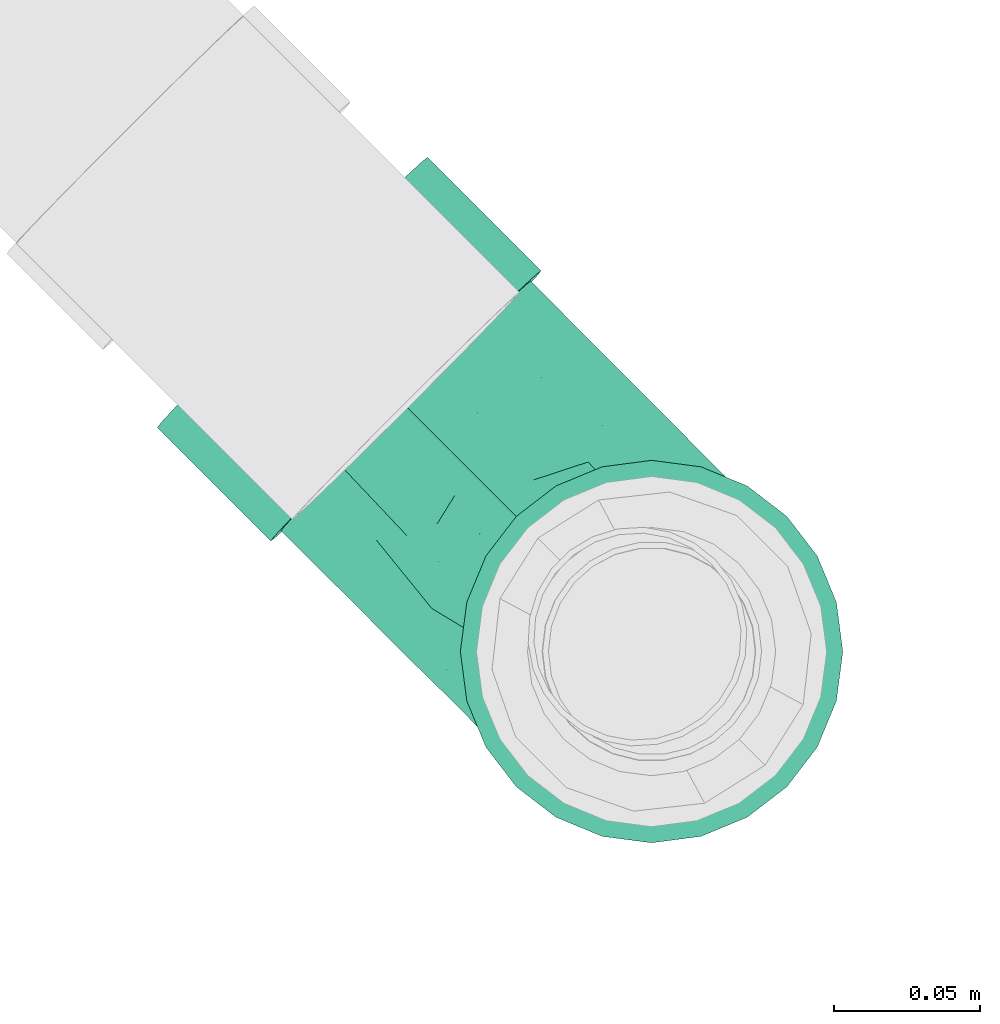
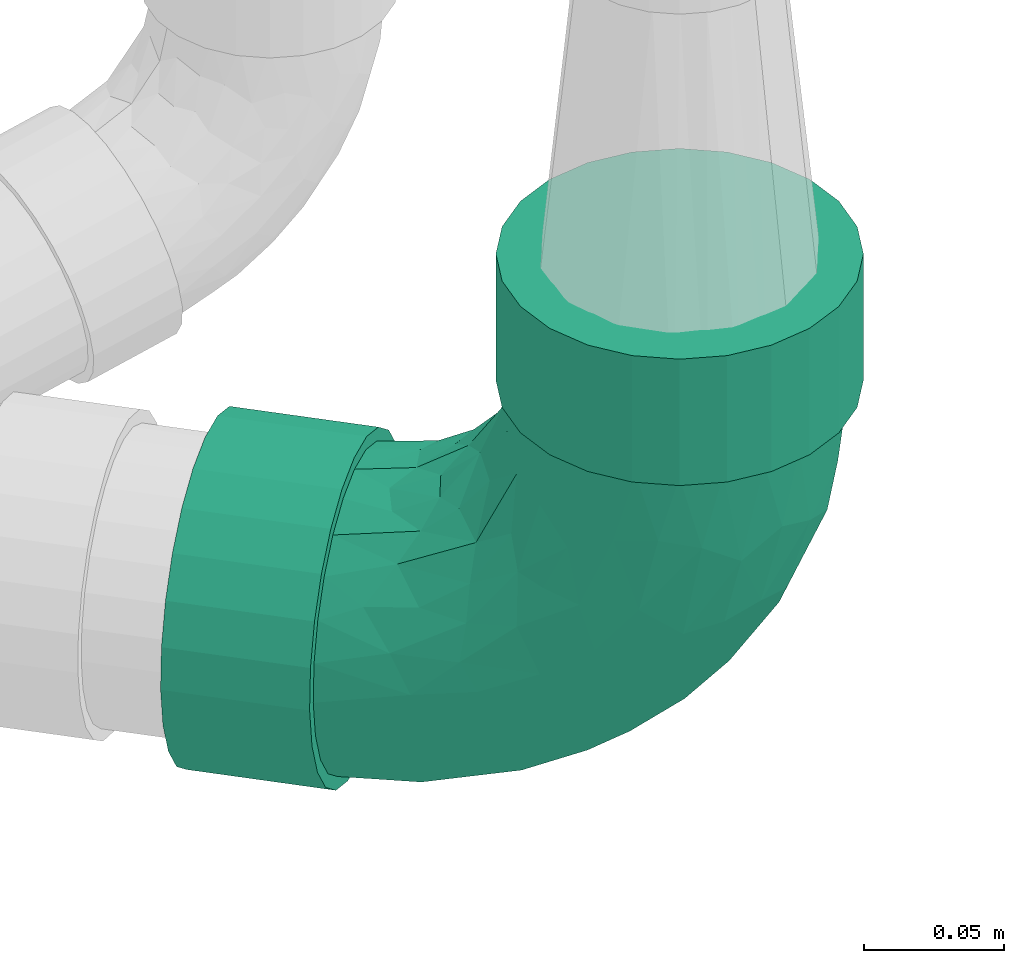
# One storey, part 63 of 83: 1 flow fitting.
"""IFC2X3 building model written with IfcOpenShell, lengths in millimetres."""

from ifc_helpers import new_model, entity, si_unit, converted_unit, derived_unit, direction, frame, origin_with_axes, place, context, subcontext, project, spatial, open_shell, surface_model, source, transform, mapped, type_object, element, save


model = new_model("IFC2X3")

# Units and contexts
model_context = context("Model", 3, precision=0.01, world=frame((0.0, 4.29681676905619e-09, 0.0)), true_north=direction((4.01073788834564e-13, 1.0)))
plan_context = context("Plan", 3, precision=0.01, world=frame((0.0, 4.29681676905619e-09, 0.0)), true_north=direction((4.01073788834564e-13, 1.0)))
body_context = subcontext(model_context, "Body", "Model", "MODEL_VIEW")
ifc_project = project(units=[converted_unit("PLANEANGLEUNIT", "DEGREE", entity("IfcPositiveLengthMeasure", 0.0174532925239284), si_unit("PLANEANGLEUNIT", "RADIAN"), dimensions=[0, 0, 0, 0, 0, 0, 0]), si_unit("AREAUNIT", "SQUARE_METRE"), si_unit("LENGTHUNIT", "METRE", prefix="MILLI"), si_unit("MASSUNIT", "GRAM", prefix="KILO"), si_unit("POWERUNIT", "WATT"), si_unit("PRESSUREUNIT", "PASCAL"), si_unit("FORCEUNIT", "NEWTON", prefix="KILO"), si_unit("ELECTRICVOLTAGEUNIT", "VOLT"), si_unit("ELECTRICCURRENTUNIT", "AMPERE"), si_unit("THERMODYNAMICTEMPERATUREUNIT", "DEGREE_CELSIUS"), si_unit("TIMEUNIT", "SECOND"), si_unit("VOLUMEUNIT", "CUBIC_METRE"), derived_unit("LINEARVELOCITYUNIT", [(si_unit("LENGTHUNIT", "METRE"), 1), (si_unit("TIMEUNIT", "SECOND"), -1)]), derived_unit("VOLUMETRICFLOWRATEUNIT", [(si_unit("VOLUMEUNIT", "CUBIC_METRE"), 1), (si_unit("TIMEUNIT", "SECOND"), -1)]), derived_unit("THERMALTRANSMITTANCEUNIT", [(si_unit("POWERUNIT", "WATT"), 1), (si_unit("THERMODYNAMICTEMPERATUREUNIT", "KELVIN"), -1), (si_unit("AREAUNIT", "SQUARE_METRE"), -1)]), derived_unit("SOUNDPRESSUREUNIT", [(si_unit("PRESSUREUNIT", "PASCAL"), 1)])], contexts=[model_context, plan_context])

# Site, building, storey
site_placement = place(None, frame((0.0, -4.29681676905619e-09, 0.0), z_axis=(0.0, 0.0, 1.0), x_axis=(1.0, 0.0, 0.0)))
site = spatial("IfcSite", under=ifc_project, at=site_placement, Name="ENGM", CompositionType="ELEMENT")
building_placement = place(site_placement, frame((0.0, 4.29681676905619e-09, 0.0), z_axis=(0.0, 0.0, 1.0), x_axis=(1.0, 0.0, 0.0)))
building = spatial("IfcBuilding", under=site, at=building_placement, Name="TI", CompositionType="ELEMENT")
storey_placement = place(building_placement, frame((0.0, 0.0, 204000.0), z_axis=(0.0, 0.0, 1.0), x_axis=(1.0, 0.0, 0.0)))
storey = spatial("IfcBuildingStorey", under=building, at=storey_placement, Name="Nivå D", CompositionType="ELEMENT", Elevation=204000.0)

# Flow fitting
pipe_fitting_type = type_object("IfcPipeFittingType", Name="magi_sewer_bend_001", PredefinedType="BEND")
shared_shape = source(origin_with_axes(), body_context, "Body", "SurfaceModel", [
    surface_model("IfcShellBasedSurfaceModel", [(-174.00014, -16.95265, -63.26814), (-174.00014, -32.75, -56.72466), (-174.00014, -46.3155, -46.3155), (-174.00014, -63.26814, -16.95265), (-174.00014, 63.26814, 16.95265), (-174.00014, 46.3155, -46.3155), (-174.00014, -56.72466, -32.75), (-174.00014, 16.95265, -63.26814), (-174.00014, 0.0, -65.5), (-174.00014, 32.75, -56.72466), (-174.00014, 56.72466, -32.75), (-174.00014, 65.5, 0.0), (-174.00014, 63.26814, -16.95265), (-174.00014, -65.5, 0.0), (-174.00014, -56.72466, 32.75), (-174.00014, -46.3155, 46.3155), (-174.00014, -16.95265, 63.26814), (-174.00014, -32.75, 56.72466), (-174.00014, 0.0, 65.5), (-174.00014, 46.3155, 46.3155), (-174.00014, 56.72466, 32.75), (-174.00014, 16.95265, 63.26814), (-174.00014, 32.75, 56.72466), (-174.00014, -63.26814, 16.95265), (-119.00014, -16.95265, 63.26814), (-119.00014, 16.95265, 63.26814), (-119.00014, 0.0, 65.5), (-119.00014, -46.3155, 46.3155), (-119.00014, -32.75, 56.72466), (-119.00014, -56.72466, 32.75), (-119.00014, -63.26814, 16.95265), (-119.00014, 63.26814, 16.95265), (-119.00014, 46.3155, 46.3155), (-119.00014, 32.75, 56.72466), (-119.00014, 56.72466, 32.75), (-119.00014, 65.5, 0.0), (-119.00014, -65.5, 0.0), (-119.00014, -63.26814, -16.95265), (-119.00014, 46.3155, -46.3155), (-119.00014, -46.3155, -46.3155), (-119.00014, -56.72466, -32.75), (-119.00014, -32.75, -56.72466), (-119.00014, -16.95265, -63.26814), (-119.00014, 56.72466, -32.75), (-119.00014, 63.26814, -16.95265), (-119.00014, 16.95265, -63.26814), (-119.00014, 32.75, -56.72466), (-119.00014, 0.0, -65.5), (-60.35976, 175.0303, 16.95265), (-53.81719, 174.92126, 32.75), (-43.40946, 174.7478, 46.3155), (-14.05069, 174.25848, 63.26814), (-62.59131, 175.06749, 0.0), (-29.84585, 174.52174, 56.72466), (2.8996, 173.97597, 65.5), (-53.81719, 174.92126, -32.75), (-60.35976, 175.0303, -16.95265), (-43.40946, 174.7478, -46.3155), (-29.84585, 174.52174, -56.72466), (2.8996, 173.97597, -65.5), (-14.05069, 174.25848, -63.26814), (19.84989, 173.69347, 63.26814), (35.64505, 173.43022, 56.72466), (49.20866, 173.20416, 46.3155), (19.84989, 173.69347, -63.26814), (66.15896, 172.92166, 16.95265), (68.3905, 172.88447, 0.0), (59.61639, 173.0307, 32.75), (49.20866, 173.20416, -46.3155), (35.64505, 173.43022, -56.72466), (66.15896, 172.92166, -16.95265), (59.61639, 173.0307, -32.75), (65.24242, 117.92929, 16.95265), (18.93335, 118.70111, -63.26814), (67.47397, 117.8921, 0.0), (48.29212, 118.2118, 46.3155), (58.69985, 118.03833, 32.75), (34.72851, 118.43786, 56.72466), (18.93335, 118.70111, 63.26814), (-30.76239, 119.52937, -56.72466), (65.24242, 117.92929, -16.95265), (48.29212, 118.2118, -46.3155), (58.69985, 118.03833, -32.75), (34.72851, 118.43786, -56.72466), (1.98306, 118.98362, -65.5), (-14.96723, 119.26612, 63.26814), (-61.2763, 120.03794, 16.95265), (-30.76239, 119.52937, 56.72466), (-44.326, 119.75544, 46.3155), (-54.73373, 119.92889, 32.75), (-44.326, 119.75544, -46.3155), (-14.96723, 119.26612, -63.26814), (-61.2763, 120.03794, -16.95265), (-54.73373, 119.92889, -32.75), (-63.50784, 120.07513, 0.0), (1.98306, 118.98362, 65.5), (-119.00014, 15.65855, -58.43851), (-119.00014, 0.0, -60.5), (-119.00014, 58.43851, -15.65855), (-119.00014, 30.25, -52.39454), (-119.00014, 52.39454, -30.25), (-119.00014, 42.77996, -42.77996), (-119.00014, -60.5, 0.0), (-119.00014, -30.25, -52.39454), (-119.00014, -42.77996, -42.77996), (-119.00014, -15.65855, -58.43851), (-119.00014, -58.43851, -15.65855), (-119.00014, -52.39454, -30.25), (-119.00014, -58.43851, 15.65855), (-119.00014, 58.43851, 15.65855), (-119.00014, 52.39454, 30.25), (-119.00014, 42.77996, 42.77996), (-119.00014, 30.25, 52.39454), (-119.00014, 15.65855, 58.43851), (-119.00014, -52.39454, 30.25), (-119.00014, -42.77996, 42.77996), (-119.00014, -30.25, 52.39454), (-119.00014, -15.65855, 58.43851), (-119.00014, 0.0, 60.5), (-119.00014, 60.5, 0.0), (1.98306, 118.98362, -60.5), (-13.67332, 119.24456, -58.43851), (-28.26274, 119.48771, -52.39454), (-40.79096, 119.69651, -42.77996), (-50.4042, 119.85674, -30.25), (-56.44734, 119.95745, -15.65855), (62.47466, 117.97542, 0.0), (32.22886, 118.47951, -52.39454), (54.37032, 118.1105, -30.25), (44.75708, 118.27072, -42.77996), (17.63944, 118.72268, -58.43851), (60.41346, 118.00978, -15.65855), (60.41346, 118.00978, 15.65855), (-56.44734, 119.95745, 15.65855), (-28.26274, 119.48771, 52.39454), (-50.4042, 119.85674, 30.25), (-40.79096, 119.69651, 42.77996), (-13.67332, 119.24456, 58.43851), (54.37032, 118.1105, 30.25), (32.22886, 118.47951, 52.39454), (44.75708, 118.27072, 42.77996), (17.63944, 118.72268, 58.43851), (1.98306, 118.98362, 60.5), (-58.50854, 119.9918, 0.0), (-86.96867, -47.00972, 34.00968), (-80.7819, -53.24129, 19.16737), (-72.5116, -54.44534, 0.0), (-89.08726, -56.60415, 0.0), (39.10086, 50.19741, 30.53174), (28.46675, 46.66826, 41.37372), (27.10486, 26.26643, 28.93951), (15.6131, 45.13, 50.36408), (15.04575, 19.2865, 37.76291), (-86.89894, -22.84389, 54.44468), (-45.38391, -14.85887, 50.36408), (-58.84928, -0.69632, 58.67437), (36.10726, 76.60456, 45.09177), (-77.19562, -34.82568, 45.09177), (-43.38966, -41.835, 15.30069), (-50.81815, -45.56532, 0.0), (-29.12469, -36.6853, 0.0), (-60.04164, 103.94237, 10.26064), (-68.71247, 84.86452, 13.0505), (-55.18446, 104.31342, 25.11937), (-103.01513, 36.62698, 49.25858), (-92.74998, 50.41099, 39.65912), (-81.72606, 68.63628, 21.03712), (-72.26232, 71.22128, 29.68156), (-20.02581, 58.58896, 60.3682), (-43.60086, 44.33359, 58.98152), (-35.10512, 25.97135, 60.22491), (-90.76971, -8.01993, 59.47818), (-20.87515, 103.00241, 56.64972), (-6.82454, 88.78959, 60.3476), (-82.9744, 9.26658, 60.39266), (-86.23765, 60.09892, 31.18136), (-99.51292, 59.70606, 21.14965), (-103.45871, 61.66716, 10.01393), (-84.31894, 70.43622, 9.89467), (-26.71447, -26.66338, 28.93951), (-19.53455, -14.72227, 37.76291), (-47.08157, -27.47335, 41.55099), (-76.57813, 77.86506, 0.0), (-96.08086, 65.00931, 0.0), (-91.33639, 23.74801, 57.13701), (-14.77502, 39.18153, 59.39632), (-28.69984, 11.00861, 56.62258), (-4.83421, 31.85984, 55.60311), (-9.89114, 10.05736, 49.62576), (44.13038, 45.82007, 14.96218), (55.64614, 71.59424, 0.0), (54.58007, 79.88344, 19.16737), (-64.95987, 25.67993, 59.41108), (-58.07521, 14.73739, 60.48167), (48.45247, 86.17322, 34.00968), (9.53143, 90.62347, 59.47818), (-50.84203, -38.25892, 30.53174), (58.08087, 88.13162, 0.0), (-48.14306, 76.43599, 47.63822), (-48.04586, 96.6209, 39.32696), (-62.58244, 66.82421, 42.77739), (-24.73556, 80.88675, 57.58424), (-63.39916, 97.15086, 0.0), (-36.69505, 92.46993, 50.11681), (-44.22551, 64.7195, 53.93366), (24.28883, 86.50619, 54.44468), (-63.12434, 40.58831, 55.92424), (-63.07462, 53.90164, 50.27785), (-81.88762, 40.91876, 50.87764), (-33.87244, 62.01368, 57.93391), (1.67691, 58.82951, 58.67437), (6.44015, -6.54838, 17.55786), (-10.4294, -22.54506, 0.0), (8.2659, -8.40481, 0.0), (23.51883, 13.41447, 18.60777), (13.30477, 6.6046, 27.47303), (-13.80454, -23.29202, 18.60777), (22.71573, 10.05225, 0.0), (-0.56725, 0.57678, 36.95386), (-3.90739, -10.13033, 28.29631), (37.16555, 28.50931, 0.0), (-60.70932, 85.30803, 29.80333), (46.40584, 50.05178, 0.0), (-99.55393, 36.96913, -49.52575), (-47.13616, -27.6851, -41.37372), (-45.38391, -14.85887, -50.36407), (-19.53455, -14.72227, -37.76291), (-88.66354, 8.30321, -60.3476), (24.28883, 86.50619, -54.44468), (15.6131, 45.12999, -50.36407), (1.6769, 58.8295, -58.67437), (-102.64024, 22.58872, -56.64972), (-68.71247, 84.86451, -13.0505), (-98.93529, 61.77779, -15.53658), (-60.04164, 103.94237, -10.26064), (-84.31894, 70.43622, -9.89467), (-50.84204, -38.25892, -30.53174), (-26.71447, -26.66338, -28.93951), (-56.98453, 48.01392, -54.99058), (-61.32494, 34.41782, -58.07217), (-76.37995, 43.81612, -50.8173), (-77.19562, -34.82568, -45.09177), (-58.24711, 20.99937, -60.3682), (-43.60086, 44.33359, -58.98152), (-25.38274, 35.53304, -60.22491), (-92.31551, 50.53005, -39.70651), (-80.7819, -53.24129, -19.16737), (-57.91698, 100.1219, -21.77038), (-59.85683, 85.88116, -30.55746), (-39.53074, 63.79195, -55.92424), (-22.22265, 91.71946, -57.13701), (-24.59385, 65.37879, -59.41108), (-86.96867, -47.00972, -34.00968), (-13.76756, 58.31273, -60.48167), (-86.89894, -22.84389, -54.44468), (-62.11182, 55.94126, -49.64549), (-39.54847, 82.55812, -50.87764), (-46.54912, -43.36069, -14.96218), (36.10726, 76.60456, -45.09177), (28.25413, 46.6172, -41.55099), (-90.76971, -8.01993, -59.47818), (-96.22555, 57.40199, -28.34878), (-76.12545, 65.40938, -32.8631), (48.45247, 86.17321, -34.00968), (39.10086, 50.19741, -30.53174), (-81.72606, 68.63628, -21.03712), (-7.88258, 83.1173, -60.39266), (27.10486, 26.26643, -28.93951), (15.04576, 19.2865, -37.76291), (-34.90521, 103.61119, -49.25858), (54.58007, 79.88344, -19.16737), (9.53143, 90.62347, -59.47818), (-51.30243, 78.81377, -44.27222), (-47.73366, 97.94443, -39.18321), (-38.92988, 15.4259, -59.39632), (-10.52882, 28.8793, -56.62258), (-31.77486, 5.36446, -55.60311), (42.55225, 42.68648, -15.30069), (-3.9074, -10.13034, -28.29631), (-13.80454, -23.29203, -18.60777), (-80.46332, 26.08004, -57.58424), (-65.77203, 63.68733, -42.77739), (-58.84928, -0.69632, -58.67437), (-9.89114, 10.05736, -49.62575), (6.44015, -6.54838, -17.55786), (13.30476, 6.6046, -27.47303), (-0.56725, 0.57678, -36.95385), (23.51883, 13.41448, -18.60777)], [open_shell([[[0, 1, 2]], [[0, 2, 3]], [[4, 5, 0]], [[3, 2, 6]], [[3, 4, 0]], [[0, 7, 8]], [[0, 9, 7]], [[5, 9, 0]], [[5, 4, 10]], [[10, 11, 12]], [[4, 3, 13]], [[14, 15, 13]], [[13, 15, 4]], [[15, 16, 4]], [[16, 15, 17]], [[18, 4, 16]], [[4, 19, 20]], [[11, 10, 4]], [[19, 21, 22]], [[21, 19, 4]], [[18, 21, 4]], [[23, 14, 13]], [[24, 25, 26]], [[27, 24, 28]], [[27, 29, 30]], [[25, 24, 27]], [[31, 27, 30]], [[25, 32, 33]], [[32, 25, 31]], [[32, 31, 34]], [[25, 27, 31]], [[30, 35, 31]], [[30, 36, 35]], [[37, 38, 36]], [[39, 37, 40]], [[39, 41, 42]], [[39, 42, 37]], [[38, 37, 42]], [[36, 38, 43]], [[44, 35, 43]], [[42, 45, 46]], [[46, 38, 42]], [[42, 47, 45]], [[43, 35, 36]], [[44, 12, 35]], [[43, 10, 44]], [[45, 47, 7]], [[38, 5, 43]], [[44, 10, 12]], [[12, 11, 35]], [[9, 46, 7]], [[9, 5, 38]], [[46, 45, 7]], [[5, 10, 43]], [[38, 46, 9]], [[47, 8, 7]], [[0, 42, 41]], [[39, 1, 41]], [[6, 40, 37]], [[39, 40, 2]], [[3, 37, 36]], [[42, 0, 8]], [[41, 1, 0]], [[39, 2, 1]], [[40, 6, 2]], [[3, 6, 37]], [[36, 13, 3]], [[42, 8, 47]], [[30, 23, 36]], [[29, 14, 30]], [[28, 17, 27]], [[27, 15, 29]], [[30, 14, 23]], [[23, 13, 36]], [[18, 16, 24]], [[16, 17, 28]], [[15, 27, 17]], [[15, 14, 29]], [[24, 16, 28]], [[24, 26, 18]], [[21, 25, 33]], [[32, 22, 33]], [[20, 34, 31]], [[32, 34, 19]], [[4, 31, 35]], [[25, 21, 18]], [[33, 22, 21]], [[32, 19, 22]], [[34, 20, 19]], [[4, 20, 31]], [[35, 11, 4]], [[25, 18, 26]], [[48, 49, 50]], [[48, 50, 51]], [[48, 51, 52]], [[51, 50, 53]], [[52, 51, 54]], [[52, 55, 56]], [[52, 54, 55]], [[57, 55, 54]], [[54, 58, 57]], [[58, 59, 60]], [[58, 54, 61]], [[61, 62, 63]], [[58, 63, 64]], [[65, 66, 63]], [[65, 63, 67]], [[64, 63, 66]], [[64, 68, 69]], [[59, 58, 64]], [[68, 70, 71]], [[70, 68, 64]], [[66, 70, 64]], [[58, 61, 63]], [[72, 73, 74]], [[75, 72, 76]], [[75, 77, 78]], [[72, 75, 73]], [[73, 75, 79]], [[80, 81, 82]], [[81, 80, 73]], [[81, 73, 83]], [[80, 74, 73]], [[73, 79, 84]], [[75, 78, 85]], [[75, 85, 79]], [[86, 85, 87]], [[88, 89, 86]], [[88, 86, 87]], [[79, 85, 86]], [[86, 90, 79]], [[91, 84, 79]], [[86, 92, 93]], [[90, 86, 93]], [[92, 86, 94]], [[85, 78, 95]], [[91, 60, 84]], [[79, 58, 91]], [[92, 94, 56]], [[90, 57, 79]], [[91, 58, 60]], [[60, 59, 84]], [[55, 93, 56]], [[55, 57, 90]], [[93, 92, 56]], [[57, 58, 79]], [[90, 93, 55]], [[94, 52, 56]], [[48, 86, 89]], [[88, 49, 89]], [[53, 87, 85]], [[88, 87, 50]], [[51, 85, 95]], [[86, 48, 52]], [[89, 49, 48]], [[88, 50, 49]], [[87, 53, 50]], [[51, 53, 85]], [[95, 54, 51]], [[86, 52, 94]], [[78, 61, 95]], [[77, 62, 78]], [[76, 67, 75]], [[75, 63, 77]], [[78, 62, 61]], [[61, 54, 95]], [[66, 65, 72]], [[65, 67, 76]], [[63, 75, 67]], [[63, 62, 77]], [[72, 65, 76]], [[72, 74, 66]], [[70, 80, 82]], [[81, 71, 82]], [[69, 83, 73]], [[81, 83, 68]], [[64, 73, 84]], [[80, 70, 66]], [[82, 71, 70]], [[81, 68, 71]], [[83, 69, 68]], [[64, 69, 73]], [[84, 59, 64]], [[80, 66, 74]], [[96, 97, 98]], [[99, 96, 98]], [[98, 100, 101]], [[99, 98, 101]], [[102, 98, 97]], [[103, 104, 105]], [[104, 97, 105]], [[106, 102, 107]], [[104, 107, 102]], [[104, 102, 97]], [[102, 108, 98]], [[109, 98, 108]], [[110, 109, 111]], [[112, 109, 108]], [[111, 109, 112]], [[113, 112, 108]], [[114, 115, 108]], [[116, 108, 115]], [[117, 118, 116]], [[108, 116, 118]], [[118, 113, 108]], [[119, 98, 109]], [[120, 121, 122]], [[120, 122, 123]], [[123, 124, 125]], [[123, 125, 120]], [[120, 125, 126]], [[127, 128, 129]], [[128, 127, 130]], [[128, 126, 131]], [[126, 128, 130]], [[130, 120, 126]], [[125, 132, 126]], [[132, 125, 133]], [[134, 133, 135]], [[132, 133, 134]], [[134, 135, 136]], [[132, 134, 137]], [[138, 139, 140]], [[139, 138, 132]], [[132, 141, 139]], [[141, 132, 142]], [[132, 137, 142]], [[133, 125, 143]], [[144, 114, 145]], [[146, 145, 147]], [[148, 149, 150]], [[145, 114, 108]], [[108, 147, 145]], [[149, 151, 152]], [[115, 114, 144]], [[153, 154, 155]], [[156, 140, 139]], [[157, 116, 115]], [[157, 153, 116]], [[158, 159, 160]], [[161, 162, 163]], [[111, 164, 165]], [[162, 166, 167]], [[110, 111, 165]], [[168, 169, 170]], [[112, 164, 111]], [[117, 171, 118]], [[137, 172, 173]], [[118, 174, 113]], [[175, 176, 110]], [[149, 148, 156]], [[119, 109, 177]], [[166, 178, 177]], [[179, 180, 181]], [[182, 183, 178]], [[184, 113, 174]], [[113, 184, 112]], [[185, 186, 187]], [[188, 154, 180]], [[166, 177, 176]], [[189, 190, 191]], [[192, 193, 170]], [[148, 191, 194]], [[184, 164, 112]], [[189, 191, 148]], [[141, 142, 195]], [[144, 196, 157]], [[191, 132, 138]], [[133, 163, 135]], [[194, 191, 138]], [[145, 146, 159]], [[191, 197, 132]], [[138, 140, 194]], [[198, 199, 200]], [[201, 168, 173]], [[178, 162, 182]], [[118, 171, 174]], [[202, 161, 143]], [[134, 136, 203]], [[182, 162, 202]], [[175, 167, 166]], [[203, 201, 172]], [[204, 201, 203]], [[135, 163, 199]], [[205, 139, 141]], [[116, 153, 117]], [[156, 205, 151]], [[134, 172, 137]], [[142, 137, 173]], [[154, 157, 181]], [[161, 202, 162]], [[156, 139, 205]], [[206, 184, 192]], [[198, 207, 204]], [[207, 165, 208]], [[176, 175, 166]], [[199, 136, 135]], [[209, 204, 169]], [[201, 209, 168]], [[195, 173, 210]], [[154, 153, 157]], [[171, 153, 155]], [[154, 181, 180]], [[154, 188, 186]], [[195, 205, 141]], [[210, 187, 151]], [[210, 151, 205]], [[151, 188, 152]], [[211, 212, 213]], [[211, 214, 215]], [[216, 158, 160]], [[211, 217, 214]], [[180, 218, 188]], [[219, 180, 179]], [[150, 215, 214]], [[189, 214, 220]], [[196, 144, 145]], [[157, 115, 144]], [[140, 156, 194]], [[148, 194, 156]], [[192, 184, 174]], [[164, 184, 208]], [[177, 178, 183]], [[162, 178, 166]], [[119, 177, 183]], [[177, 109, 176]], [[109, 110, 176]], [[175, 110, 165]], [[165, 200, 175]], [[167, 200, 221]], [[203, 198, 204]], [[206, 207, 208]], [[192, 170, 169]], [[210, 173, 168]], [[186, 170, 155]], [[168, 170, 185]], [[173, 195, 142]], [[205, 195, 210]], [[153, 171, 117]], [[174, 171, 155]], [[200, 199, 221]], [[203, 136, 199]], [[192, 174, 193]], [[206, 192, 169]], [[204, 206, 169]], [[184, 206, 208]], [[204, 207, 206]], [[165, 207, 200]], [[174, 155, 193]], [[155, 170, 193]], [[200, 167, 175]], [[162, 167, 221]], [[154, 186, 155]], [[187, 186, 188]], [[151, 187, 188]], [[185, 187, 210]], [[168, 185, 210]], [[186, 185, 170]], [[163, 162, 221]], [[143, 161, 133]], [[108, 102, 147]], [[197, 191, 190]], [[197, 126, 132]], [[165, 164, 208]], [[203, 172, 134]], [[173, 172, 201]], [[161, 163, 133]], [[199, 163, 221]], [[216, 179, 158]], [[159, 158, 145]], [[145, 158, 196]], [[189, 148, 150]], [[189, 222, 190]], [[157, 196, 181]], [[179, 181, 196]], [[158, 179, 196]], [[219, 179, 216]], [[219, 216, 211]], [[218, 180, 219]], [[211, 216, 212]], [[168, 209, 169]], [[215, 218, 219]], [[188, 218, 152]], [[216, 160, 212]], [[151, 149, 156]], [[150, 149, 152]], [[152, 218, 215]], [[189, 150, 214]], [[152, 215, 150]], [[211, 215, 219]], [[217, 211, 213]], [[217, 220, 214]], [[201, 204, 209]], [[199, 198, 203]], [[207, 198, 200]], [[189, 220, 222]], [[99, 101, 223]], [[224, 225, 226]], [[97, 96, 227]], [[228, 229, 230]], [[96, 99, 231]], [[182, 202, 232]], [[183, 233, 119]], [[202, 234, 232]], [[235, 233, 183]], [[236, 224, 237]], [[238, 239, 240]], [[241, 224, 236]], [[242, 243, 244]], [[100, 245, 101]], [[107, 246, 106]], [[247, 124, 248]], [[246, 147, 106]], [[249, 250, 251]], [[246, 107, 252]], [[251, 253, 244]], [[241, 103, 254]], [[249, 255, 256]], [[245, 240, 223]], [[131, 126, 197]], [[257, 146, 246]], [[229, 258, 259]], [[260, 105, 97]], [[236, 246, 252]], [[241, 254, 225]], [[245, 261, 262]], [[182, 235, 183]], [[263, 264, 258]], [[265, 235, 232]], [[250, 121, 266]], [[125, 234, 143]], [[267, 268, 259]], [[254, 103, 105]], [[265, 232, 248]], [[122, 269, 123]], [[263, 128, 270]], [[122, 121, 250]], [[120, 271, 266]], [[241, 104, 103]], [[272, 248, 273]], [[124, 273, 248]], [[120, 130, 271]], [[129, 258, 127]], [[96, 231, 227]], [[274, 275, 276]], [[222, 220, 277]], [[237, 278, 279]], [[228, 127, 258]], [[270, 128, 131]], [[280, 242, 227]], [[270, 197, 190]], [[107, 104, 252]], [[124, 123, 273]], [[197, 270, 131]], [[127, 228, 130]], [[128, 263, 129]], [[120, 266, 121]], [[233, 261, 98]], [[257, 246, 236]], [[281, 262, 248]], [[270, 190, 222]], [[232, 234, 247]], [[261, 233, 265]], [[240, 245, 281]], [[280, 239, 242]], [[260, 227, 282]], [[260, 254, 105]], [[282, 276, 225]], [[282, 225, 254]], [[225, 283, 226]], [[229, 228, 258]], [[271, 228, 230]], [[229, 259, 268]], [[229, 283, 275]], [[268, 283, 229]], [[284, 212, 279]], [[285, 268, 267]], [[257, 279, 160]], [[284, 217, 213]], [[283, 268, 286]], [[287, 277, 220]], [[278, 284, 279]], [[104, 241, 252]], [[236, 252, 241]], [[264, 263, 270]], [[258, 129, 263]], [[251, 250, 266]], [[269, 250, 256]], [[249, 238, 255]], [[280, 231, 223]], [[232, 235, 182]], [[233, 235, 265]], [[262, 261, 265]], [[233, 98, 119]], [[245, 100, 261]], [[98, 261, 100]], [[251, 244, 243]], [[282, 227, 242]], [[275, 244, 230]], [[242, 244, 274]], [[227, 260, 97]], [[254, 260, 282]], [[228, 271, 130]], [[266, 271, 230]], [[248, 262, 265]], [[245, 262, 281]], [[269, 273, 123]], [[272, 273, 256]], [[251, 266, 253]], [[249, 251, 243]], [[238, 249, 243]], [[250, 249, 256]], [[239, 238, 243]], [[255, 238, 240]], [[266, 230, 253]], [[230, 244, 253]], [[242, 239, 243]], [[240, 239, 280]], [[240, 281, 255]], [[255, 281, 272]], [[245, 223, 101]], [[280, 223, 240]], [[229, 275, 230]], [[276, 275, 283]], [[225, 276, 283]], [[274, 276, 282]], [[242, 274, 282]], [[275, 274, 244]], [[143, 234, 202]], [[247, 234, 125]], [[124, 247, 125]], [[232, 247, 248]], [[147, 246, 146]], [[147, 102, 106]], [[250, 269, 122]], [[273, 269, 256]], [[223, 231, 99]], [[227, 231, 280]], [[257, 236, 237]], [[257, 159, 146]], [[287, 267, 277]], [[222, 277, 270]], [[270, 277, 264]], [[225, 224, 241]], [[237, 224, 226]], [[278, 237, 226]], [[257, 237, 279]], [[286, 278, 226]], [[278, 285, 284]], [[284, 287, 217]], [[258, 264, 259]], [[283, 286, 226]], [[285, 286, 268]], [[212, 284, 213]], [[212, 160, 279]], [[267, 259, 264]], [[277, 267, 264]], [[285, 267, 287]], [[284, 285, 287]], [[285, 278, 286]], [[287, 220, 217]], [[255, 272, 256]], [[248, 272, 281]], [[257, 160, 159]]])]),
])
flow_fitting_placement = place(storey_placement, frame((609130.93565, 692600.83697, 6178.87469), z_axis=(-0.707106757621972, -0.707106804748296, -1.99944400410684e-06), x_axis=(0.707008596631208, -0.707008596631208, 0.0166639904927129)))
element("IfcFlowFitting", 1, at=flow_fitting_placement, inside=storey, type_object=pipe_fitting_type, Name="magi_sewer_bend_001", context=body_context, shape_type="MappedRepresentation", body=[
    mapped(shared_shape, transform((0.0, 0.0, 0.0), scale=1.0)),
])

save(model, "model.ifc")
